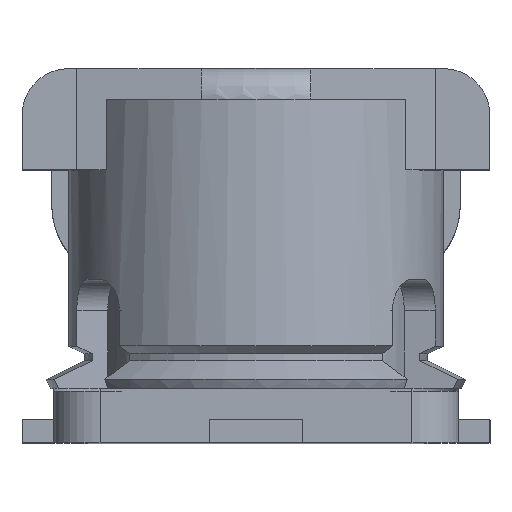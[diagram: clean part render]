
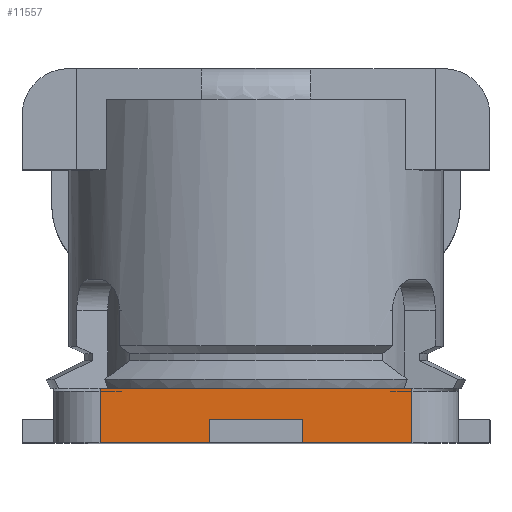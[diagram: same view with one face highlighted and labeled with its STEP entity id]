
A CAD part, top view. The second image highlights one B-rep face of the part: STEP entity #11557.
In plain terms, the highlighted planar face has unit normal (0, 0, 1).
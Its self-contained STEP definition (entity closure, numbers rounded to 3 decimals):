
#84 = LINE ( 'NONE', #5660, #5615 ) ;
#205 = CARTESIAN_POINT ( 'NONE',  ( -0.3, 0.15, 1.3 ) ) ;
#281 = VERTEX_POINT ( 'NONE', #10821 ) ;
#342 = LINE ( 'NONE', #8269, #2760 ) ;
#394 = CARTESIAN_POINT ( 'NONE',  ( 1., 0., 1.3 ) ) ;
#504 = VECTOR ( 'NONE', #9283, 1000. ) ;
#1003 = VECTOR ( 'NONE', #5135, 1000. ) ;
#1028 = DIRECTION ( 'NONE',  ( 1., 0., 0. ) ) ;
#1105 = CARTESIAN_POINT ( 'NONE',  ( 1., 0.35, 1.3 ) ) ;
#1212 = VERTEX_POINT ( 'NONE', #3217 ) ;
#1310 = LINE ( 'NONE', #2861, #3746 ) ;
#1357 = CARTESIAN_POINT ( 'NONE',  ( 0., 0.15, 1.3 ) ) ;
#1554 = EDGE_CURVE ( 'NONE', #2509, #12947, #3252, .T. ) ;
#1786 = FACE_OUTER_BOUND ( 'NONE', #5740, .T. ) ;
#1974 = CARTESIAN_POINT ( 'NONE',  ( 1., 0.35, 1.3 ) ) ;
#2385 = CARTESIAN_POINT ( 'NONE',  ( 1., 0.35, 1.3 ) ) ;
#2489 = VECTOR ( 'NONE', #12625, 1000. ) ;
#2509 = VERTEX_POINT ( 'NONE', #8249 ) ;
#2546 = ORIENTED_EDGE ( 'NONE', *, *, #10822, .F. ) ;
#2663 = VECTOR ( 'NONE', #1028, 1000. ) ;
#2733 = VERTEX_POINT ( 'NONE', #3298 ) ;
#2760 = VECTOR ( 'NONE', #9325, 1000. ) ;
#2861 = CARTESIAN_POINT ( 'NONE',  ( 0.3, 0.15, 1.3 ) ) ;
#3129 = LINE ( 'NONE', #11558, #2489 ) ;
#3151 = EDGE_CURVE ( 'NONE', #6339, #281, #9673, .T. ) ;
#3182 = PLANE ( 'NONE',  #7818 ) ;
#3217 = CARTESIAN_POINT ( 'NONE',  ( 1., 0.33, 1.3 ) ) ;
#3252 = LINE ( 'NONE', #12069, #504 ) ;
#3298 = CARTESIAN_POINT ( 'NONE',  ( 1., 0.35, 1.3 ) ) ;
#3746 = VECTOR ( 'NONE', #3927, 1000. ) ;
#3761 = LINE ( 'NONE', #1974, #1003 ) ;
#3927 = DIRECTION ( 'NONE',  ( 0., -1., 0. ) ) ;
#3936 = VECTOR ( 'NONE', #12503, 1000. ) ;
#3966 = DIRECTION ( 'NONE',  ( 0., 1., 0. ) ) ;
#4039 = ORIENTED_EDGE ( 'NONE', *, *, #1554, .T. ) ;
#4452 = ORIENTED_EDGE ( 'NONE', *, *, #10600, .T. ) ;
#4822 = CARTESIAN_POINT ( 'NONE',  ( -1., 0.35, 1.3 ) ) ;
#4975 = EDGE_CURVE ( 'NONE', #1212, #8340, #7651, .T. ) ;
#4988 = ORIENTED_EDGE ( 'NONE', *, *, #4975, .F. ) ;
#5135 = DIRECTION ( 'NONE',  ( 1., 0., 0. ) ) ;
#5308 = DIRECTION ( 'NONE',  ( 0., -1., 0. ) ) ;
#5615 = VECTOR ( 'NONE', #13032, 1000. ) ;
#5660 = CARTESIAN_POINT ( 'NONE',  ( 1., 0.35, 1.3 ) ) ;
#5740 = EDGE_LOOP ( 'NONE', ( #12157, #11195, #10303, #12680, #4988, #9709, #10120, #4039, #2546, #4452, #6717, #12450 ) ) ;
#6176 = EDGE_CURVE ( 'NONE', #9467, #13595, #10235, .T. ) ;
#6339 = VERTEX_POINT ( 'NONE', #11681 ) ;
#6370 = DIRECTION ( 'NONE',  ( -1., 0., 0. ) ) ;
#6423 = LINE ( 'NONE', #9348, #3936 ) ;
#6588 = DIRECTION ( 'NONE',  ( -1., 0., 0. ) ) ;
#6710 = LINE ( 'NONE', #1357, #8855 ) ;
#6717 = ORIENTED_EDGE ( 'NONE', *, *, #3151, .T. ) ;
#6857 = VECTOR ( 'NONE', #5308, 1000. ) ;
#7164 = EDGE_CURVE ( 'NONE', #281, #9467, #3129, .T. ) ;
#7651 = LINE ( 'NONE', #2385, #10428 ) ;
#7818 = AXIS2_PLACEMENT_3D ( 'NONE', #1105, #12667, #6370 ) ;
#8249 = CARTESIAN_POINT ( 'NONE',  ( 0.21, 0.35, 1.3 ) ) ;
#8269 = CARTESIAN_POINT ( 'NONE',  ( 1., 0.35, 1.3 ) ) ;
#8340 = VERTEX_POINT ( 'NONE', #394 ) ;
#8855 = VECTOR ( 'NONE', #6588, 1000. ) ;
#9267 = VECTOR ( 'NONE', #3966, 1000. ) ;
#9283 = DIRECTION ( 'NONE',  ( -1., 0., 0. ) ) ;
#9325 = DIRECTION ( 'NONE',  ( 0., -1., 0. ) ) ;
#9348 = CARTESIAN_POINT ( 'NONE',  ( -1., 0.35, 1.3 ) ) ;
#9467 = VERTEX_POINT ( 'NONE', #12489 ) ;
#9673 = LINE ( 'NONE', #11606, #6857 ) ;
#9709 = ORIENTED_EDGE ( 'NONE', *, *, #11478, .F. ) ;
#10120 = ORIENTED_EDGE ( 'NONE', *, *, #13089, .F. ) ;
#10235 = LINE ( 'NONE', #11314, #9267 ) ;
#10303 = ORIENTED_EDGE ( 'NONE', *, *, #11397, .T. ) ;
#10428 = VECTOR ( 'NONE', #10799, 1000. ) ;
#10600 = EDGE_CURVE ( 'NONE', #11853, #6339, #6423, .T. ) ;
#10651 = CARTESIAN_POINT ( 'NONE',  ( -0.21, 0.35, 1.3 ) ) ;
#10799 = DIRECTION ( 'NONE',  ( 0., -1., 0. ) ) ;
#10821 = CARTESIAN_POINT ( 'NONE',  ( -1., 0., 1.3 ) ) ;
#10822 = EDGE_CURVE ( 'NONE', #11853, #12947, #3761, .T. ) ;
#11001 = VERTEX_POINT ( 'NONE', #12860 ) ;
#11048 = LINE ( 'NONE', #13600, #2663 ) ;
#11195 = ORIENTED_EDGE ( 'NONE', *, *, #12254, .F. ) ;
#11314 = CARTESIAN_POINT ( 'NONE',  ( -0.3, 0.15, 1.3 ) ) ;
#11397 = EDGE_CURVE ( 'NONE', #12752, #11001, #1310, .T. ) ;
#11478 = EDGE_CURVE ( 'NONE', #2733, #1212, #342, .T. ) ;
#11557 = ADVANCED_FACE ( 'NONE', ( #1786 ), #3182, .F. ) ;
#11558 = CARTESIAN_POINT ( 'NONE',  ( 1., 0., 1.3 ) ) ;
#11606 = CARTESIAN_POINT ( 'NONE',  ( -1., 0.35, 1.3 ) ) ;
#11681 = CARTESIAN_POINT ( 'NONE',  ( -1., 0.33, 1.3 ) ) ;
#11853 = VERTEX_POINT ( 'NONE', #4822 ) ;
#12069 = CARTESIAN_POINT ( 'NONE',  ( -1.5, 0.35, 1.3 ) ) ;
#12157 = ORIENTED_EDGE ( 'NONE', *, *, #6176, .T. ) ;
#12254 = EDGE_CURVE ( 'NONE', #12752, #13595, #6710, .T. ) ;
#12450 = ORIENTED_EDGE ( 'NONE', *, *, #7164, .T. ) ;
#12489 = CARTESIAN_POINT ( 'NONE',  ( -0.3, 0., 1.3 ) ) ;
#12503 = DIRECTION ( 'NONE',  ( 0., -1., 0. ) ) ;
#12625 = DIRECTION ( 'NONE',  ( 1., 0., 0. ) ) ;
#12667 = DIRECTION ( 'NONE',  ( 0., 0., -1. ) ) ;
#12680 = ORIENTED_EDGE ( 'NONE', *, *, #12839, .T. ) ;
#12752 = VERTEX_POINT ( 'NONE', #13413 ) ;
#12839 = EDGE_CURVE ( 'NONE', #11001, #8340, #11048, .T. ) ;
#12860 = CARTESIAN_POINT ( 'NONE',  ( 0.3, 0., 1.3 ) ) ;
#12947 = VERTEX_POINT ( 'NONE', #10651 ) ;
#13032 = DIRECTION ( 'NONE',  ( 1., 0., 0. ) ) ;
#13089 = EDGE_CURVE ( 'NONE', #2509, #2733, #84, .T. ) ;
#13413 = CARTESIAN_POINT ( 'NONE',  ( 0.3, 0.15, 1.3 ) ) ;
#13595 = VERTEX_POINT ( 'NONE', #205 ) ;
#13600 = CARTESIAN_POINT ( 'NONE',  ( 1., 0., 1.3 ) ) ;
